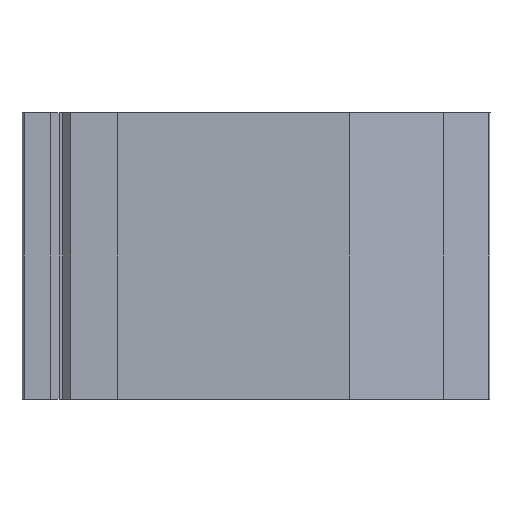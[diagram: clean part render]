
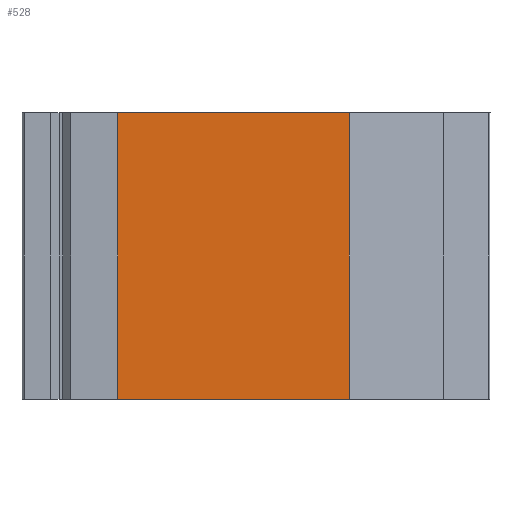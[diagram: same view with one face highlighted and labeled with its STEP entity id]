
A CAD part, left-side view. The second image highlights one B-rep face of the part: STEP entity #528.
In plain terms, the highlighted planar face has unit normal (-1, 0, 0).
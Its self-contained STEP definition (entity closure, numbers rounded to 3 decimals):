
#15 = DIRECTION ( 'NONE',  ( 0., -1., 0. ) ) ;
#65 = PLANE ( 'NONE',  #742 ) ;
#80 = VECTOR ( 'NONE', #515, 1000. ) ;
#99 = CARTESIAN_POINT ( 'NONE',  ( -14., 0., 0. ) ) ;
#108 = ORIENTED_EDGE ( 'NONE', *, *, #670, .T. ) ;
#135 = DIRECTION ( 'NONE',  ( 0., -1., 0. ) ) ;
#154 = CARTESIAN_POINT ( 'NONE',  ( -14., 0., 120. ) ) ;
#163 = LINE ( 'NONE', #643, #803 ) ;
#167 = ORIENTED_EDGE ( 'NONE', *, *, #628, .T. ) ;
#226 = VECTOR ( 'NONE', #135, 1000. ) ;
#227 = CARTESIAN_POINT ( 'NONE',  ( -14., 0., 120. ) ) ;
#287 = EDGE_CURVE ( 'NONE', #536, #770, #163, .T. ) ;
#309 = VECTOR ( 'NONE', #15, 1000. ) ;
#354 = CARTESIAN_POINT ( 'NONE',  ( -14., 0., 120. ) ) ;
#359 = VERTEX_POINT ( 'NONE', #99 ) ;
#376 = LINE ( 'NONE', #227, #80 ) ;
#440 = CARTESIAN_POINT ( 'NONE',  ( -14., 0., 120. ) ) ;
#449 = FACE_OUTER_BOUND ( 'NONE', #682, .T. ) ;
#500 = CARTESIAN_POINT ( 'NONE',  ( -14., -97.027, 120. ) ) ;
#511 = LINE ( 'NONE', #440, #226 ) ;
#515 = DIRECTION ( 'NONE',  ( 0., 0., -1. ) ) ;
#528 = ADVANCED_FACE ( 'NONE', ( #449 ), #65, .F. ) ;
#536 = VERTEX_POINT ( 'NONE', #500 ) ;
#538 = LINE ( 'NONE', #817, #309 ) ;
#552 = DIRECTION ( 'NONE',  ( 0., 0., -1. ) ) ;
#628 = EDGE_CURVE ( 'NONE', #759, #359, #376, .T. ) ;
#640 = EDGE_CURVE ( 'NONE', #759, #536, #511, .T. ) ;
#643 = CARTESIAN_POINT ( 'NONE',  ( -14., -97.027, 120. ) ) ;
#670 = EDGE_CURVE ( 'NONE', #359, #770, #538, .T. ) ;
#682 = EDGE_LOOP ( 'NONE', ( #108, #911, #914, #167 ) ) ;
#715 = DIRECTION ( 'NONE',  ( 0., 0., -1. ) ) ;
#742 = AXIS2_PLACEMENT_3D ( 'NONE', #354, #789, #715 ) ;
#759 = VERTEX_POINT ( 'NONE', #154 ) ;
#770 = VERTEX_POINT ( 'NONE', #890 ) ;
#789 = DIRECTION ( 'NONE',  ( 1., 0., 0. ) ) ;
#803 = VECTOR ( 'NONE', #552, 1000. ) ;
#817 = CARTESIAN_POINT ( 'NONE',  ( -14., 0., 0. ) ) ;
#890 = CARTESIAN_POINT ( 'NONE',  ( -14., -97.027, 0. ) ) ;
#911 = ORIENTED_EDGE ( 'NONE', *, *, #287, .F. ) ;
#914 = ORIENTED_EDGE ( 'NONE', *, *, #640, .F. ) ;
